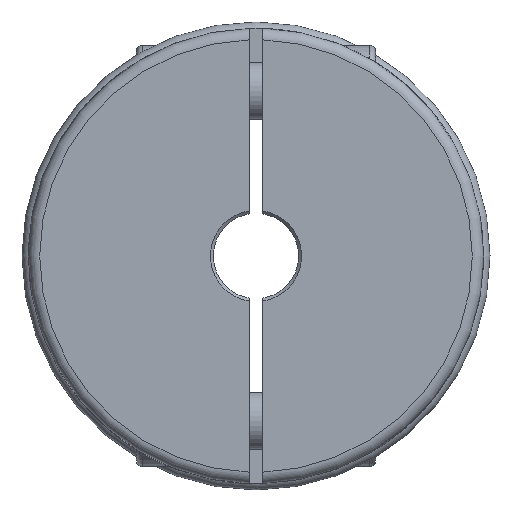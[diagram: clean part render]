
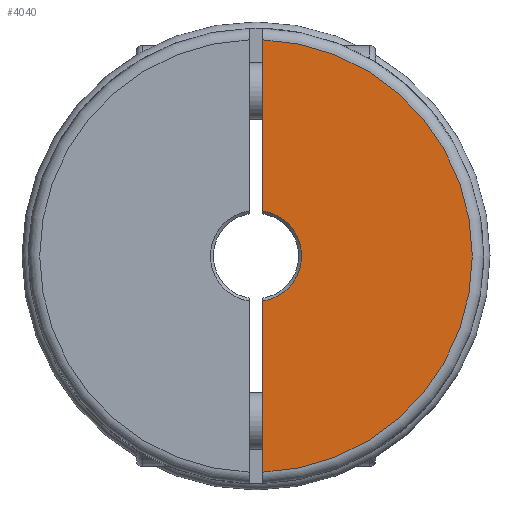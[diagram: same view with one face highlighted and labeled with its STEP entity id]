
A CAD part, left-side view. The second image highlights one B-rep face of the part: STEP entity #4040.
In plain terms, the highlighted planar face has unit normal (-1, 0, 0).
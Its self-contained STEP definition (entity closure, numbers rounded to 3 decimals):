
#26=LINE('',#5883,#170);
#35=LINE('',#5914,#179);
#170=VECTOR('',#4733,1000.);
#179=VECTOR('',#4746,1000.);
#375=PLANE('',#4302);
#704=ORIENTED_EDGE('',*,*,#1337,.T.);
#705=ORIENTED_EDGE('',*,*,#1265,.T.);
#706=ORIENTED_EDGE('',*,*,#1325,.F.);
#707=ORIENTED_EDGE('',*,*,#1353,.F.);
#1265=EDGE_CURVE('',#1630,#1628,#1896,.T.);
#1325=EDGE_CURVE('',#1683,#1628,#26,.T.);
#1337=EDGE_CURVE('',#1689,#1630,#35,.T.);
#1353=EDGE_CURVE('',#1689,#1683,#1937,.T.);
#1628=VERTEX_POINT('',#5465);
#1630=VERTEX_POINT('',#5468);
#1683=VERTEX_POINT('',#5884);
#1689=VERTEX_POINT('',#5915);
#1896=CIRCLE('',#4219,8.);
#1937=CIRCLE('',#4288,38.);
#2129=EDGE_LOOP('',(#704,#705,#706,#707));
#2417=FACE_BOUND('',#2129,.T.);
#4040=ADVANCED_FACE('',(#2417),#375,.F.);
#4219=AXIS2_PLACEMENT_3D('',#5467,#4615,#4616);
#4288=AXIS2_PLACEMENT_3D('',#5957,#4777,#4778);
#4302=AXIS2_PLACEMENT_3D('',#5971,#4805,#4806);
#4615=DIRECTION('',(1.,0.,0.));
#4616=DIRECTION('',(0.,0.,-1.));
#4733=DIRECTION('',(0.,0.,1.));
#4746=DIRECTION('',(0.,0.,-1.));
#4777=DIRECTION('',(1.,0.,0.));
#4778=DIRECTION('',(0.,0.,-1.));
#4805=DIRECTION('',(1.,0.,0.));
#4806=DIRECTION('',(0.,0.,-1.));
#5465=CARTESIAN_POINT('',(-112.403,-1.2,-7.909));
#5467=CARTESIAN_POINT('',(-112.403,0.,0.));
#5468=CARTESIAN_POINT('',(-112.403,-1.2,7.909));
#5883=CARTESIAN_POINT('',(-112.403,-1.2,40.));
#5884=CARTESIAN_POINT('',(-112.403,-1.2,-37.981));
#5914=CARTESIAN_POINT('',(-112.403,-1.2,40.));
#5915=CARTESIAN_POINT('',(-112.403,-1.2,37.981));
#5957=CARTESIAN_POINT('',(-112.403,0.,0.));
#5971=CARTESIAN_POINT('',(-112.403,0.,40.));
